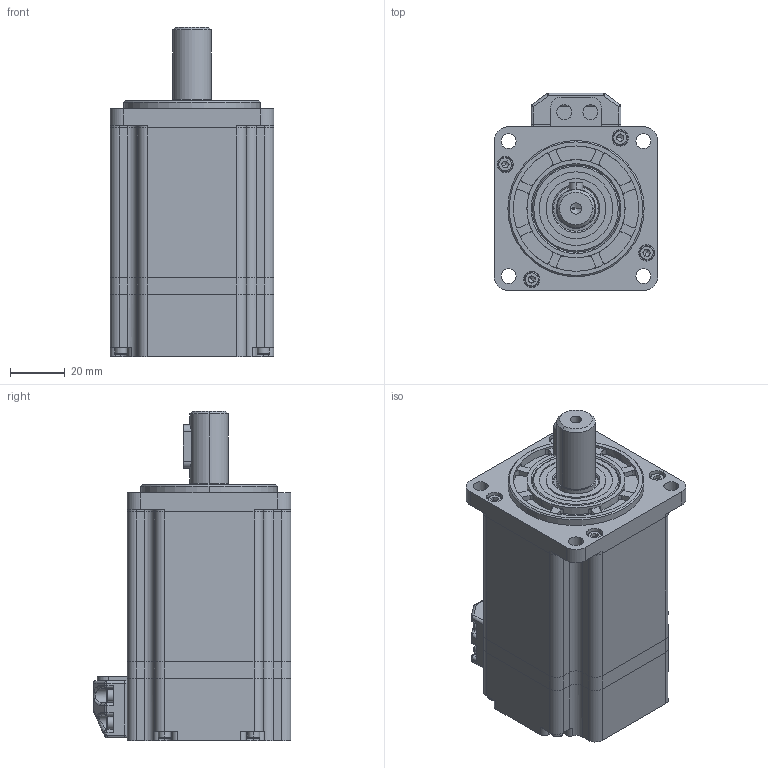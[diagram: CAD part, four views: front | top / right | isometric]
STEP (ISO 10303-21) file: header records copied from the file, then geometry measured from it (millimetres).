
FILE_DESCRIPTION (( 'STEP AP203' ), '1' );
FILE_NAME ('淕儂蚾饜.STEP', '2019-05-10T08:23:45', ( 'admin' ), ( '' ), 'SwSTEP 2.0', 'SolidWorks 2016', '' );
FILE_SCHEMA (( 'CONFIG_CONTROL_DESIGN' ));
Length unit declared in the file: millimetre
Products named in the file (1): 淕儂蚾饜
Bounding box: 60 x 72.5 x 121 mm (x, y, z)
Volume: 132638.4 mm3; surface area: 85175.7 mm2
Topology: 22 solids, 22 shells, 1266 faces, 3175 edges, 1956 vertices
Faces by surface type: cylinder 560, plane 470, cone 150, torus 48, sphere 26, bspline 12
Entity records: 38990 total; most frequent: CARTESIAN_POINT 7938, DIRECTION 6967, ORIENTED_EDGE 6182, EDGE_CURVE 3091, AXIS2_PLACEMENT_3D 2697, VERTEX_POINT 1956, VECTOR 1573, LINE 1573
